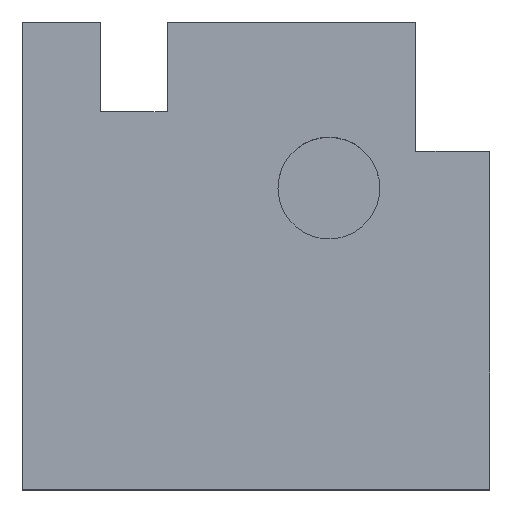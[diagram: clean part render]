
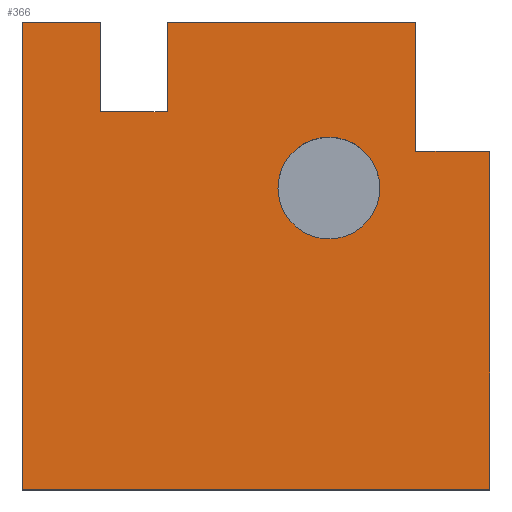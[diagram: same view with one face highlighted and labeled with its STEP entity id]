
A CAD part, top view. The second image highlights one B-rep face of the part: STEP entity #366.
In plain terms, the highlighted planar face has unit normal (0, 0, 1).
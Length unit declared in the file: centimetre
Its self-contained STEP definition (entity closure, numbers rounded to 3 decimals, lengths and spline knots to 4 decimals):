
#21 = ORIENTED_EDGE ( 'NONE', *, *, #832, .T. ) ;
#24 = EDGE_CURVE ( 'NONE', #1649, #1451, #1650, .T. ) ;
#30 = DIRECTION ( 'NONE',  ( 0., -1., 0. ) ) ;
#41 = LINE ( 'NONE', #1388, #1941 ) ;
#56 = CARTESIAN_POINT ( 'NONE',  ( 841.9017, 723.0098, 1000. ) ) ;
#77 = DIRECTION ( 'NONE',  ( 1., 0., 0. ) ) ;
#116 = VECTOR ( 'NONE', #134, 100. ) ;
#134 = DIRECTION ( 'NONE',  ( 1., 0., 0. ) ) ;
#168 = CARTESIAN_POINT ( 'NONE',  ( 841.9017, 1000., 1000. ) ) ;
#191 = LINE ( 'NONE', #1403, #1942 ) ;
#196 = DIRECTION ( 'NONE',  ( 0., 0., 1. ) ) ;
#218 = EDGE_CURVE ( 'NONE', #1160, #1649, #500, .T. ) ;
#219 = VERTEX_POINT ( 'NONE', #168 ) ;
#225 = CARTESIAN_POINT ( 'NONE',  ( 0., 0., 1000. ) ) ;
#228 = EDGE_CURVE ( 'NONE', #1451, #444, #514, .T. ) ;
#326 = DIRECTION ( 'NONE',  ( 0., -1., 0. ) ) ;
#332 = VECTOR ( 'NONE', #77, 100. ) ;
#366 = ADVANCED_FACE ( 'NONE', ( #528, #1470 ), #537, .T. ) ;
#433 = ORIENTED_EDGE ( 'NONE', *, *, #1754, .F. ) ;
#442 = EDGE_CURVE ( 'NONE', #219, #444, #1289, .T. ) ;
#444 = VERTEX_POINT ( 'NONE', #976 ) ;
#495 = CIRCLE ( 'NONE', #1592, 109.0044 ) ;
#500 = LINE ( 'NONE', #1712, #1572 ) ;
#514 = LINE ( 'NONE', #1862, #970 ) ;
#522 = VECTOR ( 'NONE', #1418, 100. ) ;
#526 = AXIS2_PLACEMENT_3D ( 'NONE', #641, #196, #1230 ) ;
#528 = FACE_OUTER_BOUND ( 'NONE', #734, .T. ) ;
#537 = PLANE ( 'NONE',  #909 ) ;
#550 = VECTOR ( 'NONE', #821, 100. ) ;
#555 = LINE ( 'NONE', #850, #550 ) ;
#588 = VERTEX_POINT ( 'NONE', #836 ) ;
#641 = CARTESIAN_POINT ( 'NONE',  ( 655.9707, 644.6765, 1000. ) ) ;
#672 = DIRECTION ( 'NONE',  ( 0., 0., 1. ) ) ;
#734 = EDGE_LOOP ( 'NONE', ( #1948, #1488, #21, #1003, #1918, #1074, #844, #1913, #1743, #736 ) ) ;
#736 = ORIENTED_EDGE ( 'NONE', *, *, #24, .F. ) ;
#753 = CARTESIAN_POINT ( 'NONE',  ( 166.9912, 808.3463, 1000. ) ) ;
#756 = CARTESIAN_POINT ( 'NONE',  ( 166.9912, 1000., 1000. ) ) ;
#774 = LINE ( 'NONE', #842, #332 ) ;
#787 = LINE ( 'NONE', #1554, #932 ) ;
#792 = EDGE_CURVE ( 'NONE', #1701, #588, #41, .T. ) ;
#820 = LINE ( 'NONE', #975, #522 ) ;
#821 = DIRECTION ( 'NONE',  ( 0., 1., 0. ) ) ;
#832 = EDGE_CURVE ( 'NONE', #1195, #1093, #191, .T. ) ;
#836 = CARTESIAN_POINT ( 'NONE',  ( 1000., 723.0098, 1000. ) ) ;
#842 = CARTESIAN_POINT ( 'NONE',  ( 1000., 723.0098, 1000. ) ) ;
#844 = ORIENTED_EDGE ( 'NONE', *, *, #978, .T. ) ;
#850 = CARTESIAN_POINT ( 'NONE',  ( 841.9017, 723.0098, 1000. ) ) ;
#867 = DIRECTION ( 'NONE',  ( 1., 0., 0. ) ) ;
#870 = CARTESIAN_POINT ( 'NONE',  ( 0., 1000., 1000. ) ) ;
#874 = ORIENTED_EDGE ( 'NONE', *, *, #1193, .F. ) ;
#898 = EDGE_CURVE ( 'NONE', #1093, #1701, #787, .T. ) ;
#909 = AXIS2_PLACEMENT_3D ( 'NONE', #1881, #672, #867 ) ;
#914 = EDGE_LOOP ( 'NONE', ( #433, #874 ) ) ;
#916 = VERTEX_POINT ( 'NONE', #56 ) ;
#932 = VECTOR ( 'NONE', #1261, 100. ) ;
#954 = DIRECTION ( 'NONE',  ( 0., 1., 0. ) ) ;
#956 = EDGE_CURVE ( 'NONE', #916, #588, #774, .T. ) ;
#970 = VECTOR ( 'NONE', #1520, 100. ) ;
#975 = CARTESIAN_POINT ( 'NONE',  ( 0., 1000., 1000. ) ) ;
#976 = CARTESIAN_POINT ( 'NONE',  ( 309.8365, 1000., 1000. ) ) ;
#978 = EDGE_CURVE ( 'NONE', #916, #219, #555, .T. ) ;
#1003 = ORIENTED_EDGE ( 'NONE', *, *, #898, .T. ) ;
#1074 = ORIENTED_EDGE ( 'NONE', *, *, #956, .F. ) ;
#1093 = VERTEX_POINT ( 'NONE', #225 ) ;
#1094 = CARTESIAN_POINT ( 'NONE',  ( 1000., 0., 1000. ) ) ;
#1130 = CARTESIAN_POINT ( 'NONE',  ( 0., 1000., 1000. ) ) ;
#1156 = CARTESIAN_POINT ( 'NONE',  ( 546.9663, 644.6765, 1000. ) ) ;
#1160 = VERTEX_POINT ( 'NONE', #756 ) ;
#1193 = EDGE_CURVE ( 'NONE', #1606, #1500, #495, .T. ) ;
#1195 = VERTEX_POINT ( 'NONE', #870 ) ;
#1230 = DIRECTION ( 'NONE',  ( 1., 0., 0. ) ) ;
#1238 = CARTESIAN_POINT ( 'NONE',  ( 166.9912, 808.3463, 1000. ) ) ;
#1261 = DIRECTION ( 'NONE',  ( 1., 0., 0. ) ) ;
#1289 = LINE ( 'NONE', #1130, #1401 ) ;
#1388 = CARTESIAN_POINT ( 'NONE',  ( 1000., 1000., 1000. ) ) ;
#1391 = EDGE_CURVE ( 'NONE', #1160, #1195, #820, .T. ) ;
#1401 = VECTOR ( 'NONE', #1447, 100. ) ;
#1403 = CARTESIAN_POINT ( 'NONE',  ( 0., 1000., 1000. ) ) ;
#1412 = CARTESIAN_POINT ( 'NONE',  ( 309.8365, 808.3463, 1000. ) ) ;
#1418 = DIRECTION ( 'NONE',  ( -1., 0., 0. ) ) ;
#1447 = DIRECTION ( 'NONE',  ( -1., 0., 0. ) ) ;
#1451 = VERTEX_POINT ( 'NONE', #1412 ) ;
#1470 = FACE_BOUND ( 'NONE', #914, .T. ) ;
#1488 = ORIENTED_EDGE ( 'NONE', *, *, #1391, .T. ) ;
#1500 = VERTEX_POINT ( 'NONE', #1722 ) ;
#1520 = DIRECTION ( 'NONE',  ( 0., 1., 0. ) ) ;
#1554 = CARTESIAN_POINT ( 'NONE',  ( 0., 0., 1000. ) ) ;
#1572 = VECTOR ( 'NONE', #326, 100. ) ;
#1592 = AXIS2_PLACEMENT_3D ( 'NONE', #1802, #1634, #1621 ) ;
#1606 = VERTEX_POINT ( 'NONE', #1156 ) ;
#1621 = DIRECTION ( 'NONE',  ( 1., 0., 0. ) ) ;
#1634 = DIRECTION ( 'NONE',  ( 0., 0., 1. ) ) ;
#1649 = VERTEX_POINT ( 'NONE', #1238 ) ;
#1650 = LINE ( 'NONE', #753, #116 ) ;
#1701 = VERTEX_POINT ( 'NONE', #1094 ) ;
#1712 = CARTESIAN_POINT ( 'NONE',  ( 166.9912, 808.3463, 1000. ) ) ;
#1722 = CARTESIAN_POINT ( 'NONE',  ( 764.9751, 644.6765, 1000. ) ) ;
#1743 = ORIENTED_EDGE ( 'NONE', *, *, #228, .F. ) ;
#1754 = EDGE_CURVE ( 'NONE', #1500, #1606, #1788, .T. ) ;
#1788 = CIRCLE ( 'NONE', #526, 109.0044 ) ;
#1802 = CARTESIAN_POINT ( 'NONE',  ( 655.9707, 644.6765, 1000. ) ) ;
#1862 = CARTESIAN_POINT ( 'NONE',  ( 309.8365, 808.3463, 1000. ) ) ;
#1881 = CARTESIAN_POINT ( 'NONE',  ( 0., 0., 1000. ) ) ;
#1913 = ORIENTED_EDGE ( 'NONE', *, *, #442, .T. ) ;
#1918 = ORIENTED_EDGE ( 'NONE', *, *, #792, .T. ) ;
#1941 = VECTOR ( 'NONE', #954, 100. ) ;
#1942 = VECTOR ( 'NONE', #30, 100. ) ;
#1948 = ORIENTED_EDGE ( 'NONE', *, *, #218, .F. ) ;
